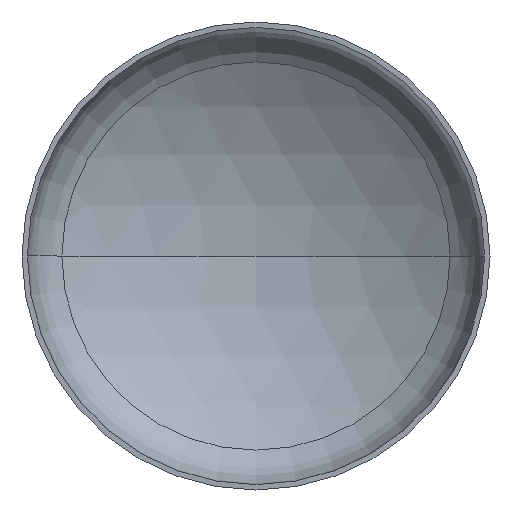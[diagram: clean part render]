
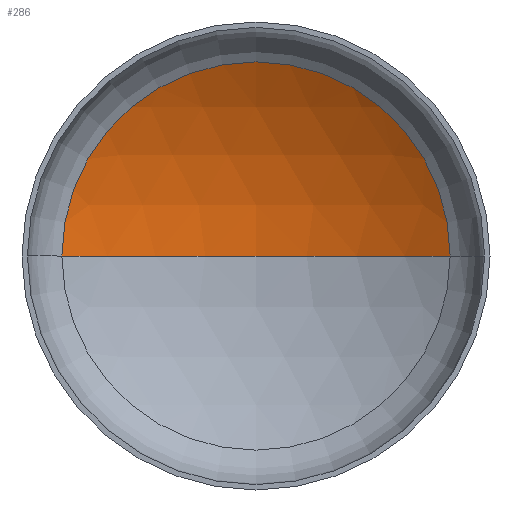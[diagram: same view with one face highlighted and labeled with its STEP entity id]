
A CAD part, front view. The second image highlights one B-rep face of the part: STEP entity #286.
In plain terms, the highlighted spherical face has radius 1440 mm.
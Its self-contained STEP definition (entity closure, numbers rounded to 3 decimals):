
#10 = EDGE_LOOP ( 'NONE', ( #198, #136, #125 ) ) ;
#16 = AXIS2_PLACEMENT_3D ( 'NONE', #150, #345, #186 ) ;
#19 = AXIS2_PLACEMENT_3D ( 'NONE', #244, #346, #190 ) ;
#22 = AXIS2_PLACEMENT_3D ( 'NONE', #104, #266, #363 ) ;
#25 = AXIS2_PLACEMENT_3D ( 'NONE', #210, #219, #395 ) ;
#59 = VERTEX_POINT ( 'NONE', #261 ) ;
#104 = CARTESIAN_POINT ( 'NONE',  ( 0., -926.197, 0. ) ) ;
#125 = ORIENTED_EDGE ( 'NONE', *, *, #315, .T. ) ;
#129 = VERTEX_POINT ( 'NONE', #262 ) ;
#136 = ORIENTED_EDGE ( 'NONE', *, *, #332, .T. ) ;
#150 = CARTESIAN_POINT ( 'NONE',  ( 0., -926.197, 0. ) ) ;
#186 = DIRECTION ( 'NONE',  ( 1., 0., 0. ) ) ;
#190 = DIRECTION ( 'NONE',  ( 1., 0., 0. ) ) ;
#198 = ORIENTED_EDGE ( 'NONE', *, *, #333, .F. ) ;
#204 = VERTEX_POINT ( 'NONE', #392 ) ;
#210 = CARTESIAN_POINT ( 'NONE',  ( 0., -926.197, 0. ) ) ;
#219 = DIRECTION ( 'NONE',  ( 0., 0., -1. ) ) ;
#244 = CARTESIAN_POINT ( 'NONE',  ( 0., 305.154, 0. ) ) ;
#261 = CARTESIAN_POINT ( 'NONE',  ( 746.575, 305.154, 0. ) ) ;
#262 = CARTESIAN_POINT ( 'NONE',  ( -746.575, 305.154, 0. ) ) ;
#265 = CIRCLE ( 'NONE', #19, 746.575 ) ;
#266 = DIRECTION ( 'NONE',  ( 0., 0., -1. ) ) ;
#273 = CIRCLE ( 'NONE', #16, 1440. ) ;
#286 = ADVANCED_FACE ( 'NONE', ( #347 ), #336, .F. ) ;
#315 = EDGE_CURVE ( 'NONE', #59, #129, #265, .T. ) ;
#332 = EDGE_CURVE ( 'NONE', #204, #59, #398, .T. ) ;
#333 = EDGE_CURVE ( 'NONE', #204, #129, #273, .T. ) ;
#336 = SPHERICAL_SURFACE ( 'NONE', #22, 1440. ) ;
#345 = DIRECTION ( 'NONE',  ( 0., 0., 1. ) ) ;
#346 = DIRECTION ( 'NONE',  ( 0., -1., 0. ) ) ;
#347 = FACE_OUTER_BOUND ( 'NONE', #10, .T. ) ;
#363 = DIRECTION ( 'NONE',  ( -1., 0., 0. ) ) ;
#392 = CARTESIAN_POINT ( 'NONE',  ( 0., 513.803, 0. ) ) ;
#395 = DIRECTION ( 'NONE',  ( -1., 0., 0. ) ) ;
#398 = CIRCLE ( 'NONE', #25, 1440. ) ;
